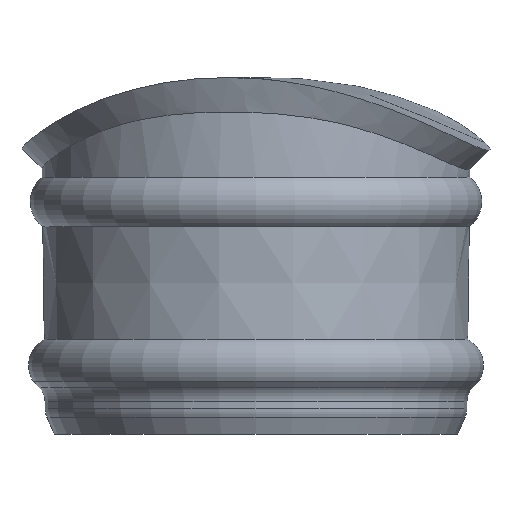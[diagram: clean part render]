
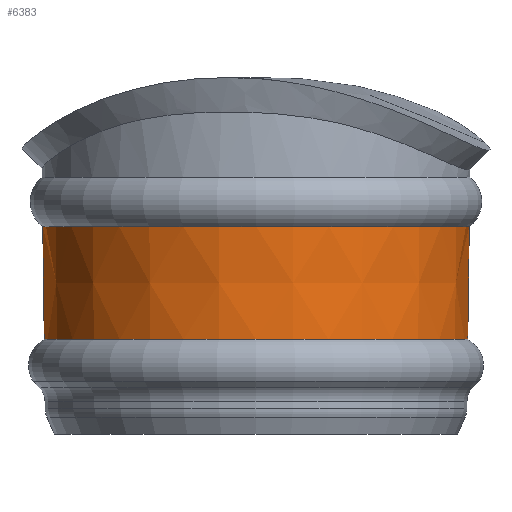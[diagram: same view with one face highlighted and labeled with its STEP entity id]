
A CAD part, front view. The second image highlights one B-rep face of the part: STEP entity #6383.
In plain terms, the highlighted conical face has half-angle 0.75 degrees and reference radius 5.15 mm.
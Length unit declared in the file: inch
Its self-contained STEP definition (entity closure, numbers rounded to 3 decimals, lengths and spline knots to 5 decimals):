
#245 = VECTOR ( 'NONE', #6966, 39.37008 ) ;
#594 = EDGE_CURVE ( 'NONE', #5542, #3276, #5812, .T. ) ;
#1197 = ORIENTED_EDGE ( 'NONE', *, *, #2283, .T. ) ;
#1373 = DIRECTION ( 'NONE',  ( 0., 0., -1. ) ) ;
#1388 = CARTESIAN_POINT ( 'NONE',  ( 0., 0., 8.11504 ) ) ;
#1584 = LINE ( 'NONE', #4028, #3511 ) ;
#1937 = EDGE_CURVE ( 'NONE', #3276, #1988, #1584, .T. ) ;
#1969 = AXIS2_PLACEMENT_3D ( 'NONE', #3776, #1373, #2442 ) ;
#1988 = VERTEX_POINT ( 'NONE', #3389 ) ;
#2147 = LINE ( 'NONE', #4591, #245 ) ;
#2283 = EDGE_CURVE ( 'NONE', #6135, #1988, #2861, .T. ) ;
#2442 = DIRECTION ( 'NONE',  ( -1., 0., 0. ) ) ;
#2575 = DIRECTION ( 'NONE',  ( 0., 0., 1. ) ) ;
#2733 = DIRECTION ( 'NONE',  ( -0.013, 0., 1. ) ) ;
#2742 = EDGE_LOOP ( 'NONE', ( #6539, #6145, #6962, #1197 ) ) ;
#2861 = CIRCLE ( 'NONE', #3897, 0.20091 ) ;
#3034 = CARTESIAN_POINT ( 'NONE',  ( -0.19952, 0., 7.86784 ) ) ;
#3276 = VERTEX_POINT ( 'NONE', #3034 ) ;
#3389 = CARTESIAN_POINT ( 'NONE',  ( -0.20091, 0., 7.97414 ) ) ;
#3511 = VECTOR ( 'NONE', #2733, 39.37008 ) ;
#3687 = AXIS2_PLACEMENT_3D ( 'NONE', #1388, #2575, #5704 ) ;
#3776 = CARTESIAN_POINT ( 'NONE',  ( 0., 0., 7.86784 ) ) ;
#3897 = AXIS2_PLACEMENT_3D ( 'NONE', #4698, #7100, #7063 ) ;
#4028 = CARTESIAN_POINT ( 'NONE',  ( -0.20276, 0., 8.11504 ) ) ;
#4443 = CONICAL_SURFACE ( 'NONE', #3687, 0.20276, 0.013 ) ;
#4591 = CARTESIAN_POINT ( 'NONE',  ( 0.20276, 0., 8.11504 ) ) ;
#4698 = CARTESIAN_POINT ( 'NONE',  ( 0., 0., 7.97414 ) ) ;
#4917 = CARTESIAN_POINT ( 'NONE',  ( 0.19952, 0., 7.86784 ) ) ;
#5468 = CARTESIAN_POINT ( 'NONE',  ( 0.20091, 0., 7.97414 ) ) ;
#5542 = VERTEX_POINT ( 'NONE', #4917 ) ;
#5704 = DIRECTION ( 'NONE',  ( 1., 0., 0. ) ) ;
#5711 = EDGE_CURVE ( 'NONE', #5542, #6135, #2147, .T. ) ;
#5812 = CIRCLE ( 'NONE', #1969, 0.19952 ) ;
#6135 = VERTEX_POINT ( 'NONE', #5468 ) ;
#6145 = ORIENTED_EDGE ( 'NONE', *, *, #594, .F. ) ;
#6292 = FACE_OUTER_BOUND ( 'NONE', #2742, .T. ) ;
#6383 = ADVANCED_FACE ( 'NONE', ( #6292 ), #4443, .T. ) ;
#6539 = ORIENTED_EDGE ( 'NONE', *, *, #1937, .F. ) ;
#6962 = ORIENTED_EDGE ( 'NONE', *, *, #5711, .T. ) ;
#6966 = DIRECTION ( 'NONE',  ( 0.013, 0., 1. ) ) ;
#7063 = DIRECTION ( 'NONE',  ( -1., 0., 0. ) ) ;
#7100 = DIRECTION ( 'NONE',  ( 0., 0., -1. ) ) ;
